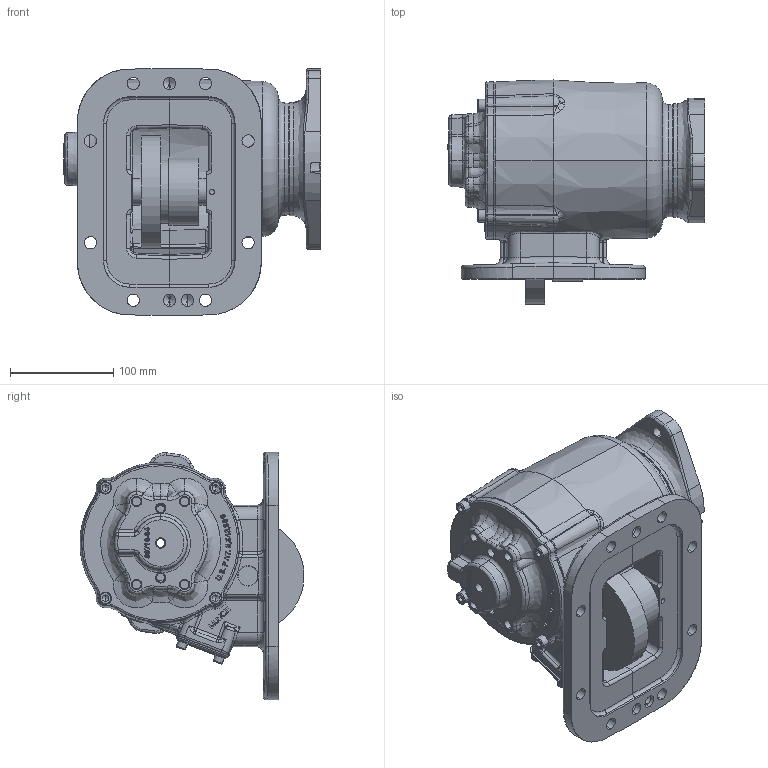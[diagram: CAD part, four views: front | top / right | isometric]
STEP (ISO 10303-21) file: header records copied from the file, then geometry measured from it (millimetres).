
FILE_DESCRIPTION (( 'STEP AP203' ), '1' );
FILE_NAME ('CS8S-XXXXX-X3SX.STEP', '2012-06-11T15:11:50', ( '' ), ( '' ), 'SwSTEP 2.0', 'SolidWorks 2012', '' );
FILE_SCHEMA (( 'CONFIG_CONTROL_DESIGN' ));
Products named in the file (3): CS8S-XXXXX-X3SX; 14t35464; CS8S-XXXXX-X3XX
Assembly tree (2 placements, depth 2):
  CS8S-XXXXX-X3SX
    CS8S-XXXXX-X3XX
    14t35464
Bounding box: 249.19 x 216.55 x 239.61 mm (x, y, z)
Volume: 1863478.6 mm3; surface area: 441060.2 mm2
Topology: 3 solids, 14 shells, 1969 faces, 4957 edges, 3058 vertices
Faces by surface type: bspline 724, plane 518, cylinder 454, cone 187, torus 78, sphere 8
Entity records: 100488 total; most frequent: CARTESIAN_POINT 58378, ORIENTED_EDGE 9772, DIRECTION 6975, EDGE_CURVE 4886, VERTEX_POINT 3058, AXIS2_PLACEMENT_3D 2531, EDGE_LOOP 2180, FACE_OUTER_BOUND 1969
